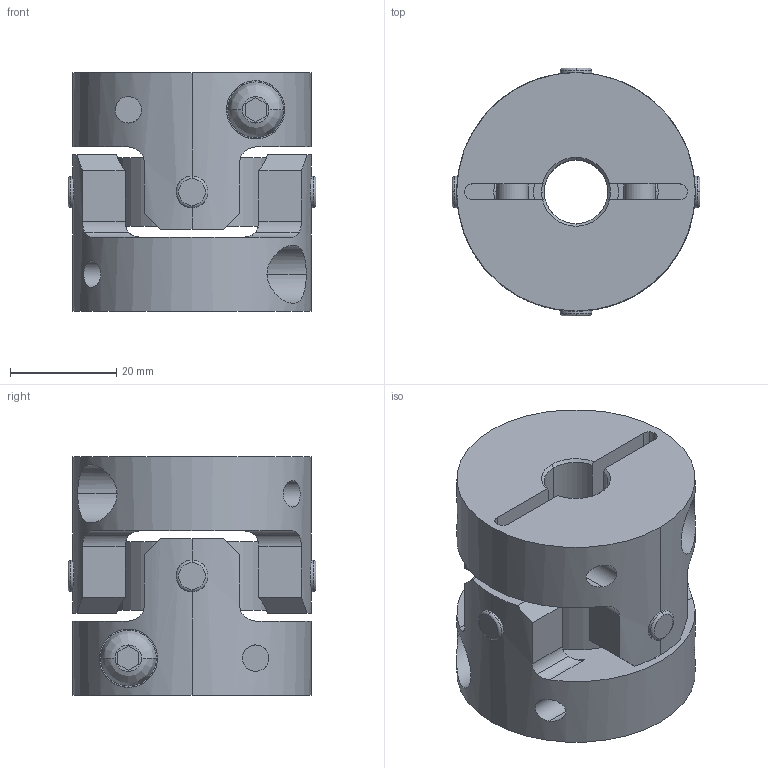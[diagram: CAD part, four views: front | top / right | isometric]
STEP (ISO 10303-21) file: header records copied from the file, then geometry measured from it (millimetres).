
FILE_DESCRIPTION((''),'2;1');
FILE_NAME('UA-45C-12×12.stp','2013-05-22T10:21:38',(''),(''),'AutoCAD STEP 2000i','AutoCAD 2000i',', , ');
FILE_SCHEMA(('CONFIG_CONTROL_DESIGN'));
Length unit declared in the file: millimetre
Products named in the file (6): UA-45C-8×8; 忣兜1; UA-4502-D08-1; BTN-M6; UA-4502-D08; UA45-SEN
Assembly tree (6 placements, depth 3):
  UA-45C-8×8
    忣兜1
    UA-4502-D08-1
      BTN-M6
    UA-4502-D08
      BTN-M6
    UA45-SEN
Bounding box: 46.73 x 46.73 x 45 mm (x, y, z)
Volume: 50272.1 mm3; surface area: 20264.6 mm2
Topology: 1 solids, 1 shells, 206 faces, 554 edges, 364 vertices
Faces by surface type: cylinder 96, plane 78, cone 16, bspline 8, torus 8
Entity records: 8523 total; most frequent: CARTESIAN_POINT 3207, ORIENTED_EDGE 1108, DIRECTION 1064, EDGE_CURVE 554, AXIS2_PLACEMENT_3D 409, VERTEX_POINT 364, VECTOR 246, LINE 246
